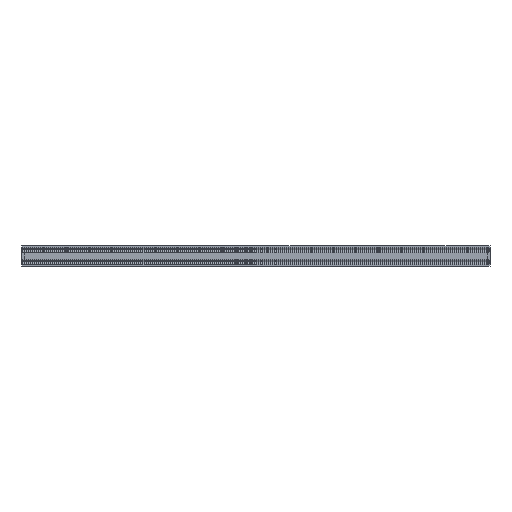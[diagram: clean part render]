
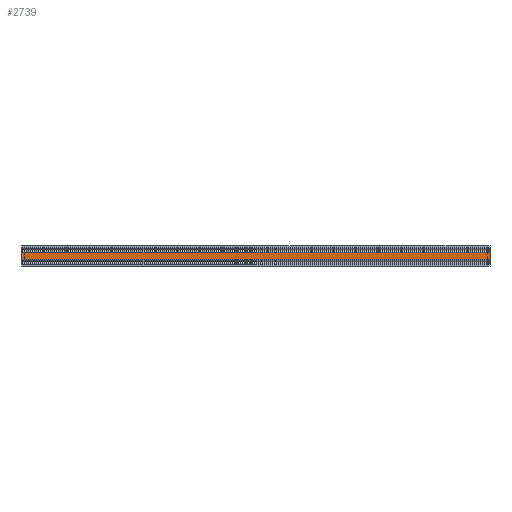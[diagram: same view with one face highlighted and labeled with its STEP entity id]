
A CAD part, front view. The second image highlights one B-rep face of the part: STEP entity #2739.
In plain terms, the highlighted planar face has unit normal (0, -1, 0) as drawn and (0, 0, 1) by its records, which use the part's own axes.
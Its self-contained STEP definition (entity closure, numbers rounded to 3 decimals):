
#333=PLANE('',#2973);
#653=LINE('',#4480,#981);
#654=LINE('',#4484,#982);
#655=LINE('',#4486,#983);
#656=LINE('',#4488,#984);
#981=VECTOR('',#3672,1000.);
#982=VECTOR('',#3677,1000.);
#983=VECTOR('',#3678,1000.);
#984=VECTOR('',#3679,1000.);
#1650=ORIENTED_EDGE('',*,*,#2058,.T.);
#1651=ORIENTED_EDGE('',*,*,#2059,.F.);
#1652=ORIENTED_EDGE('',*,*,#2060,.F.);
#1653=ORIENTED_EDGE('',*,*,#2056,.T.);
#2056=EDGE_CURVE('',#2305,#2304,#653,.T.);
#2058=EDGE_CURVE('',#2304,#2306,#654,.T.);
#2059=EDGE_CURVE('',#2307,#2306,#655,.T.);
#2060=EDGE_CURVE('',#2305,#2307,#656,.T.);
#2304=VERTEX_POINT('',#4479);
#2305=VERTEX_POINT('',#4481);
#2306=VERTEX_POINT('',#4485);
#2307=VERTEX_POINT('',#4487);
#2467=EDGE_LOOP('',(#1650,#1651,#1652,#1653));
#2595=FACE_BOUND('',#2467,.T.);
#2739=ADVANCED_FACE('',(#2595),#333,.F.);
#2973=AXIS2_PLACEMENT_3D('',#4483,#3675,#3676);
#3672=DIRECTION('',(-1.,0.,0.));
#3675=DIRECTION('',(0.,0.,-1.));
#3676=DIRECTION('',(-1.,0.,0.));
#3677=DIRECTION('',(0.,-1.,0.));
#3678=DIRECTION('',(-1.,0.,0.));
#3679=DIRECTION('',(0.,-1.,0.));
#4479=CARTESIAN_POINT('',(-350.,-9.527,500.));
#4480=CARTESIAN_POINT('',(350.,-9.527,500.));
#4481=CARTESIAN_POINT('',(350.,-9.527,500.));
#4483=CARTESIAN_POINT('',(350.,-9.527,500.));
#4484=CARTESIAN_POINT('',(-350.,-9.527,500.));
#4485=CARTESIAN_POINT('',(-350.,-20.473,500.));
#4486=CARTESIAN_POINT('',(350.,-20.473,500.));
#4487=CARTESIAN_POINT('',(350.,-20.473,500.));
#4488=CARTESIAN_POINT('',(350.,-9.527,500.));
